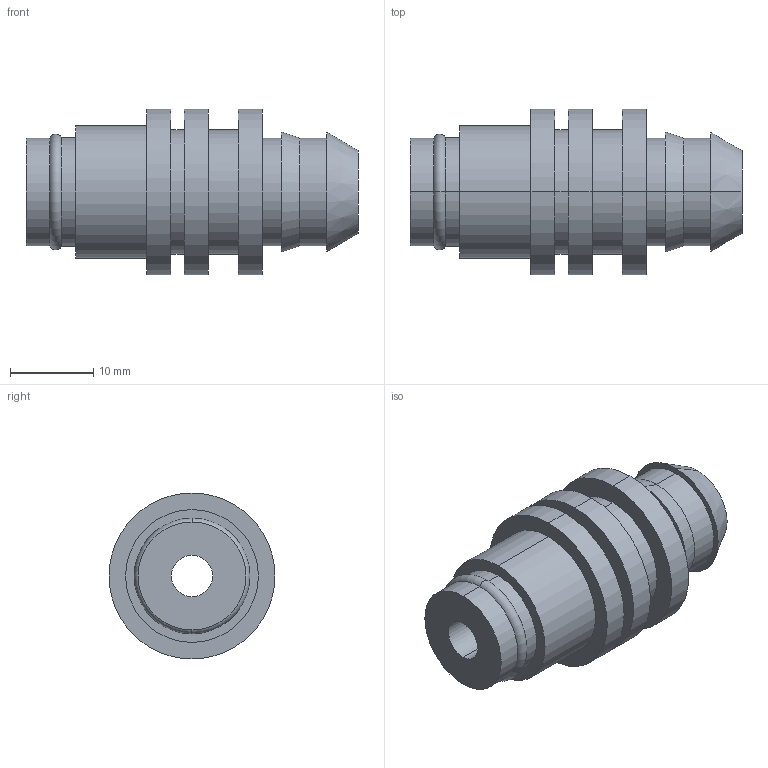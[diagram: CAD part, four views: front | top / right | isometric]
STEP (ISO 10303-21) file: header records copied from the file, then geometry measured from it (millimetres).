
FILE_DESCRIPTION (( 'STEP AP214' ), '1' );
FILE_NAME ('BR85-08.FG13.STEP', '2020-06-23T08:23:09', ( '' ), ( '' ), 'SwSTEP 2.0', 'SolidWorks 2018', '' );
FILE_SCHEMA (( 'AUTOMOTIVE_DESIGN' ));
Length unit declared in the file: millimetre
Products named in the file (1): BR85-08.FG13
Bounding box: 40 x 20 x 20 mm (x, y, z)
Volume: 6915.6 mm3; surface area: 3753.7 mm2
Topology: 1 solids, 1 shells, 39 faces, 78 edges, 50 vertices
Faces by surface type: cylinder 22, plane 11, cone 4, torus 2
Entity records: 1074 total; most frequent: DIRECTION 210, CARTESIAN_POINT 168, ORIENTED_EDGE 156, AXIS2_PLACEMENT_3D 92, EDGE_CURVE 78, CIRCLE 52, VERTEX_POINT 50, EDGE_LOOP 50
